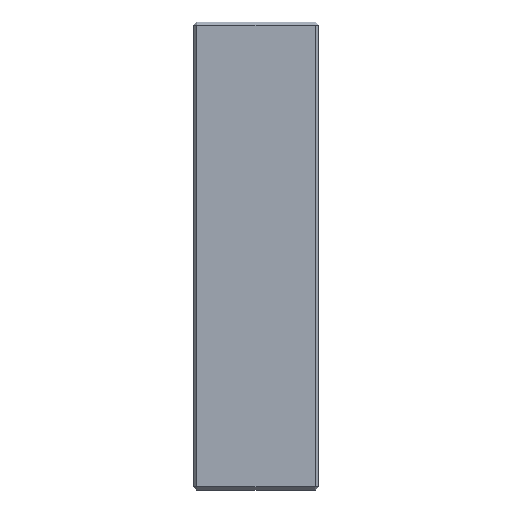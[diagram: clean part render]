
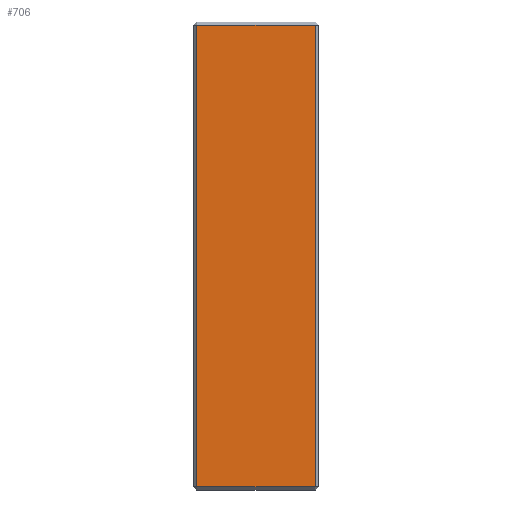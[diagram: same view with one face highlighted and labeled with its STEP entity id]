
A CAD part, top view. The second image highlights one B-rep face of the part: STEP entity #706.
In plain terms, the highlighted planar face has unit normal (0, 0, 1).
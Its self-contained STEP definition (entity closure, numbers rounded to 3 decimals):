
#126 = PLANE('',#127);
#127 = AXIS2_PLACEMENT_3D('',#128,#129,#130);
#128 = CARTESIAN_POINT('',(1.,0.,17.));
#129 = DIRECTION('',(0.707,0.,-0.707));
#130 = DIRECTION('',(0.,1.,0.));
#309 = VERTEX_POINT('',#310);
#310 = CARTESIAN_POINT('',(2.,2.,18.));
#333 = VERTEX_POINT('',#334);
#334 = CARTESIAN_POINT('',(2.,298.,18.));
#360 = EDGE_CURVE('',#309,#333,#361,.T.);
#361 = SURFACE_CURVE('',#362,(#366,#373),.PCURVE_S1.);
#362 = LINE('',#363,#364);
#363 = CARTESIAN_POINT('',(2.,0.,18.));
#364 = VECTOR('',#365,1.);
#365 = DIRECTION('',(0.,1.,0.));
#366 = PCURVE('',#126,#367);
#367 = DEFINITIONAL_REPRESENTATION('',(#368),#372);
#368 = LINE('',#369,#370);
#369 = CARTESIAN_POINT('',(0.,1.414));
#370 = VECTOR('',#371,1.);
#371 = DIRECTION('',(1.,0.));
#372 = ( GEOMETRIC_REPRESENTATION_CONTEXT(2) 
PARAMETRIC_REPRESENTATION_CONTEXT() REPRESENTATION_CONTEXT('2D SPACE',''
  ) );
#373 = PCURVE('',#374,#379);
#374 = PLANE('',#375);
#375 = AXIS2_PLACEMENT_3D('',#376,#377,#378);
#376 = CARTESIAN_POINT('',(0.,0.,18.));
#377 = DIRECTION('',(0.,0.,1.));
#378 = DIRECTION('',(1.,0.,0.));
#379 = DEFINITIONAL_REPRESENTATION('',(#380),#384);
#380 = LINE('',#381,#382);
#381 = CARTESIAN_POINT('',(2.,0.));
#382 = VECTOR('',#383,1.);
#383 = DIRECTION('',(0.,1.));
#384 = ( GEOMETRIC_REPRESENTATION_CONTEXT(2) 
PARAMETRIC_REPRESENTATION_CONTEXT() REPRESENTATION_CONTEXT('2D SPACE',''
  ) );
#511 = PLANE('',#512);
#512 = AXIS2_PLACEMENT_3D('',#513,#514,#515);
#513 = CARTESIAN_POINT('',(0.,1.,17.));
#514 = DIRECTION('',(0.,0.707,-0.707));
#515 = DIRECTION('',(-1.,-0.,-0.));
#706 = ADVANCED_FACE('',(#707),#374,.T.);
#707 = FACE_BOUND('',#708,.T.);
#708 = EDGE_LOOP('',(#709,#710,#733,#761));
#709 = ORIENTED_EDGE('',*,*,#360,.F.);
#710 = ORIENTED_EDGE('',*,*,#711,.T.);
#711 = EDGE_CURVE('',#309,#712,#714,.T.);
#712 = VERTEX_POINT('',#713);
#713 = CARTESIAN_POINT('',(78.,2.,18.));
#714 = SURFACE_CURVE('',#715,(#719,#726),.PCURVE_S1.);
#715 = LINE('',#716,#717);
#716 = CARTESIAN_POINT('',(0.,2.,18.));
#717 = VECTOR('',#718,1.);
#718 = DIRECTION('',(1.,0.,0.));
#719 = PCURVE('',#374,#720);
#720 = DEFINITIONAL_REPRESENTATION('',(#721),#725);
#721 = LINE('',#722,#723);
#722 = CARTESIAN_POINT('',(0.,2.));
#723 = VECTOR('',#724,1.);
#724 = DIRECTION('',(1.,0.));
#725 = ( GEOMETRIC_REPRESENTATION_CONTEXT(2) 
PARAMETRIC_REPRESENTATION_CONTEXT() REPRESENTATION_CONTEXT('2D SPACE',''
  ) );
#726 = PCURVE('',#511,#727);
#727 = DEFINITIONAL_REPRESENTATION('',(#728),#732);
#728 = LINE('',#729,#730);
#729 = CARTESIAN_POINT('',(-0.,1.414));
#730 = VECTOR('',#731,1.);
#731 = DIRECTION('',(-1.,0.));
#732 = ( GEOMETRIC_REPRESENTATION_CONTEXT(2) 
PARAMETRIC_REPRESENTATION_CONTEXT() REPRESENTATION_CONTEXT('2D SPACE',''
  ) );
#733 = ORIENTED_EDGE('',*,*,#734,.T.);
#734 = EDGE_CURVE('',#712,#735,#737,.T.);
#735 = VERTEX_POINT('',#736);
#736 = CARTESIAN_POINT('',(78.,298.,18.));
#737 = SURFACE_CURVE('',#738,(#742,#749),.PCURVE_S1.);
#738 = LINE('',#739,#740);
#739 = CARTESIAN_POINT('',(78.,0.,18.));
#740 = VECTOR('',#741,1.);
#741 = DIRECTION('',(0.,1.,0.));
#742 = PCURVE('',#374,#743);
#743 = DEFINITIONAL_REPRESENTATION('',(#744),#748);
#744 = LINE('',#745,#746);
#745 = CARTESIAN_POINT('',(78.,0.));
#746 = VECTOR('',#747,1.);
#747 = DIRECTION('',(0.,1.));
#748 = ( GEOMETRIC_REPRESENTATION_CONTEXT(2) 
PARAMETRIC_REPRESENTATION_CONTEXT() REPRESENTATION_CONTEXT('2D SPACE',''
  ) );
#749 = PCURVE('',#750,#755);
#750 = PLANE('',#751);
#751 = AXIS2_PLACEMENT_3D('',#752,#753,#754);
#752 = CARTESIAN_POINT('',(79.,0.,17.));
#753 = DIRECTION('',(0.707,0.,0.707));
#754 = DIRECTION('',(-0.,1.,0.));
#755 = DEFINITIONAL_REPRESENTATION('',(#756),#760);
#756 = LINE('',#757,#758);
#757 = CARTESIAN_POINT('',(0.,1.414));
#758 = VECTOR('',#759,1.);
#759 = DIRECTION('',(1.,0.));
#760 = ( GEOMETRIC_REPRESENTATION_CONTEXT(2) 
PARAMETRIC_REPRESENTATION_CONTEXT() REPRESENTATION_CONTEXT('2D SPACE',''
  ) );
#761 = ORIENTED_EDGE('',*,*,#762,.F.);
#762 = EDGE_CURVE('',#333,#735,#763,.T.);
#763 = SURFACE_CURVE('',#764,(#768,#775),.PCURVE_S1.);
#764 = LINE('',#765,#766);
#765 = CARTESIAN_POINT('',(0.,298.,18.));
#766 = VECTOR('',#767,1.);
#767 = DIRECTION('',(1.,0.,0.));
#768 = PCURVE('',#374,#769);
#769 = DEFINITIONAL_REPRESENTATION('',(#770),#774);
#770 = LINE('',#771,#772);
#771 = CARTESIAN_POINT('',(0.,298.));
#772 = VECTOR('',#773,1.);
#773 = DIRECTION('',(1.,0.));
#774 = ( GEOMETRIC_REPRESENTATION_CONTEXT(2) 
PARAMETRIC_REPRESENTATION_CONTEXT() REPRESENTATION_CONTEXT('2D SPACE',''
  ) );
#775 = PCURVE('',#776,#781);
#776 = PLANE('',#777);
#777 = AXIS2_PLACEMENT_3D('',#778,#779,#780);
#778 = CARTESIAN_POINT('',(0.,299.,17.));
#779 = DIRECTION('',(0.,0.707,0.707));
#780 = DIRECTION('',(-1.,-0.,0.));
#781 = DEFINITIONAL_REPRESENTATION('',(#782),#786);
#782 = LINE('',#783,#784);
#783 = CARTESIAN_POINT('',(-0.,1.414));
#784 = VECTOR('',#785,1.);
#785 = DIRECTION('',(-1.,0.));
#786 = ( GEOMETRIC_REPRESENTATION_CONTEXT(2) 
PARAMETRIC_REPRESENTATION_CONTEXT() REPRESENTATION_CONTEXT('2D SPACE',''
  ) );
